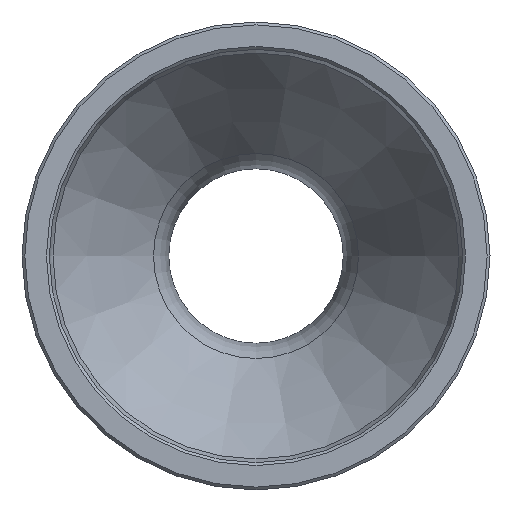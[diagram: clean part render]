
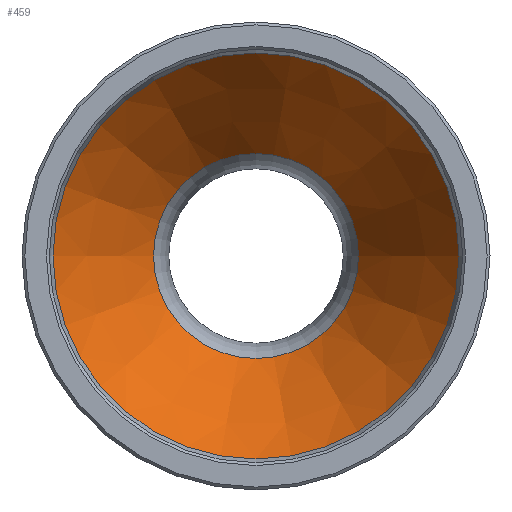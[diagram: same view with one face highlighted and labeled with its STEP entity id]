
A CAD part, left-side view. The second image highlights one B-rep face of the part: STEP entity #459.
In plain terms, the highlighted conical face has half-angle 32.813 degrees and reference radius 10.615 mm.
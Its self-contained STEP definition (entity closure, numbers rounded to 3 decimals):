
#425=CARTESIAN_POINT('',(-5.902,7.123,0.0));
#426=VERTEX_POINT('',#425);
#427=CARTESIAN_POINT('',(-5.902,0.0,0.0));
#428=DIRECTION('',(1.0,0.0,0.0));
#429=DIRECTION('',(0.0,1.0,0.0));
#430=AXIS2_PLACEMENT_3D('',#427,#428,#429);
#431=CIRCLE('',#430,7.123);
#432=EDGE_CURVE('',#426,#426,#431,.T.);
#440=CARTESIAN_POINT('',(-11.317,0.0,0.0));
#441=DIRECTION('',(-1.0,0.0,0.0));
#442=DIRECTION('',(0.0,1.0,0.0));
#443=AXIS2_PLACEMENT_3D('',#440,#441,#442);
#444=CONICAL_SURFACE('',#443,10.615,32.813);
#445=CARTESIAN_POINT('',(-16.733,14.107,0.0));
#446=VERTEX_POINT('',#445);
#447=CARTESIAN_POINT('',(-16.733,0.0,0.0));
#448=DIRECTION('',(1.0,0.0,0.0));
#449=DIRECTION('',(0.0,1.0,0.0));
#450=AXIS2_PLACEMENT_3D('',#447,#448,#449);
#451=CIRCLE('',#450,14.107);
#452=EDGE_CURVE('',#446,#446,#451,.T.);
#453=ORIENTED_EDGE('',*,*,#452,.F.);
#454=EDGE_LOOP('',(#453));
#455=FACE_OUTER_BOUND('',#454,.T.);
#456=ORIENTED_EDGE('',*,*,#432,.T.);
#457=EDGE_LOOP('',(#456));
#458=FACE_BOUND('',#457,.T.);
#459=ADVANCED_FACE('',(#455,#458),#444,.F.);
